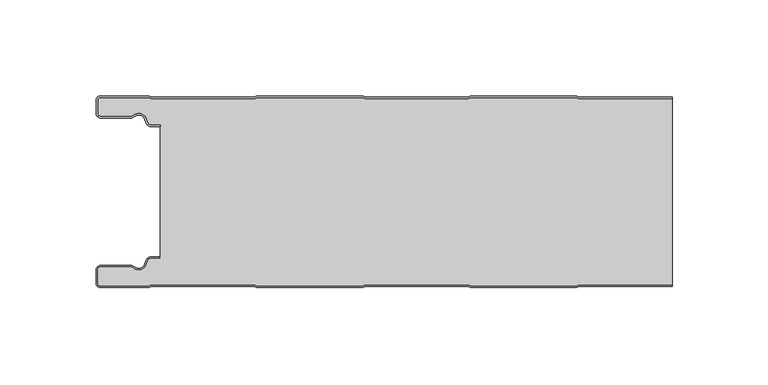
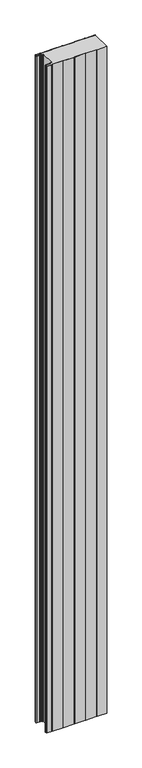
"""IFC4 building model written with IfcOpenShell, lengths in millimetres: plate geometry, ACH_Panel-Frigorífico_PUR-PIR : ACH_Panel-Frigorífico-PIR_100mm."""

from ifc_helpers import new_model, si_unit, point, frame_2d, origin, origin_with_axes, place, context, project, spatial, polyline, circle_curve, trimmed, segment, composite_curve, outline, extrude, source, transform, mapped, element, save


def plate_da9b8946(model_context):
    return source(origin(), model_context, "Body", "SweptSolid", [
        extrude(outline(composite_curve([segment(trimmed(circle_curve(frame_2d((-147.49499, -9.0180361)), 2.50501), [point((-147.49499, -11.5230461))], [point((-150.0, -9.0180361))], False, "CARTESIAN"), True, "CONTINUOUS"), segment(polyline([(-150.0, -9.0180361), (-150.0, -2.50501)]), True, "CONTINUOUS"), segment(trimmed(circle_curve(frame_2d((-147.49499, -2.50501)), 2.50501), [point((-150.0, -2.50501))], [point((-147.49499, 0.0))], False, "CARTESIAN"), True, "CONTINUOUS"), segment(polyline([(-147.49499, 0.0), (-122.2103007, 0.0), (-121.028188, -0.6012024), (-67.6391467, -0.6012024), (-66.457034, 0.0), (-10.8776353, 0.0), (-9.6955227, -0.6012024), (43.6935186, -0.6012024), (44.8756313, 0.0), (100.45503, 0.0), (101.6371427, -0.6012024), (150.0, -0.6012024), (150.0, -1.4012024), (101.4453963, -1.4012024), (100.2632836, -0.8), (45.0673777, -0.8), (43.885265, -1.4012024), (-9.887269, -1.4012024), (-11.0693817, -0.8), (-66.2652876, -0.8), (-67.4474003, -1.4012024), (-121.2199344, -1.4012024), (-122.4020471, -0.8), (-147.49499, -0.8)]), True, "CONTINUOUS"), segment(trimmed(circle_curve(frame_2d((-147.49499, -2.50501)), 1.70501), [point((-147.49499, -0.8))], [point((-149.2, -2.50501))], True, "CARTESIAN"), True, "CONTINUOUS"), segment(polyline([(-149.2, -2.50501), (-149.2, -9.0180361)]), True, "CONTINUOUS"), segment(trimmed(circle_curve(frame_2d((-147.49499, -9.0180361)), 1.70501), [point((-149.2, -9.0180361))], [point((-147.49499, -10.7230461))], True, "CARTESIAN"), True, "CONTINUOUS"), segment(polyline([(-147.49499, -10.7230461), (-131.8173283, -10.7230461)]), True, "CONTINUOUS"), segment(trimmed(circle_curve(frame_2d((-131.8173283, -9.0180361)), 1.70501), [point((-131.8173283, -10.7230461))], [point((-130.6895701, -10.2967936))], True, "CARTESIAN"), True, "CONTINUOUS"), segment(trimmed(circle_curve(frame_2d((-127.8407481, -13.5270541)), 4.307014), [point((-130.6895701, -10.2967936))], [point((-123.7934788, -12.0539686))], False, "CARTESIAN"), True, "CONTINUOUS"), segment(polyline([(-123.7934788, -12.0539686), (-123.0450711, -14.1102019)]), True, "CONTINUOUS"), segment(trimmed(circle_curve(frame_2d((-121.4428858, -13.5270541)), 1.70501), [point((-123.0450711, -14.1102019))], [point((-121.4428858, -15.2320641))], True, "CARTESIAN"), True, "CONTINUOUS"), segment(polyline([(-121.4428858, -15.2320641), (-116.4328657, -15.2320641), (-116.4328657, -16.0320641), (-121.4428858, -16.0320641)]), True, "CONTINUOUS"), segment(trimmed(circle_curve(frame_2d((-121.4428858, -13.5270541)), 2.50501), [point((-121.4428858, -16.0320641))], [point((-123.7968252, -14.383818))], False, "CARTESIAN"), True, "CONTINUOUS"), segment(polyline([(-123.7968252, -14.383818), (-124.5452329, -12.3275847)]), True, "CONTINUOUS"), segment(trimmed(circle_curve(frame_2d((-127.8407481, -13.5270541)), 3.507014), [point((-124.5452329, -12.3275847))], [point((-130.1604199, -10.8967936))], True, "CARTESIAN"), True, "CONTINUOUS"), segment(trimmed(circle_curve(frame_2d((-131.8173283, -9.0180361)), 2.50501), [point((-130.1604199, -10.8967936))], [point((-131.8173283, -11.5230461))], False, "CARTESIAN"), True, "CONTINUOUS"), segment(polyline([(-131.8173283, -11.5230461), (-147.49499, -11.5230461)]), True, "CONTINUOUS")], self_intersect=False)), origin_with_axes(), (0.0, 0.0, 1.0), 3500.0),
        extrude(outline(composite_curve([segment(trimmed(circle_curve(frame_2d((-121.4428858, -13.5270541)), 1.70501), [point((-121.4428858, -15.2320641))], [point((-123.0450711, -14.1102019))], False, "CARTESIAN"), True, "CONTINUOUS"), segment(polyline([(-123.0450711, -14.1102019), (-123.7934788, -12.0539686)]), True, "CONTINUOUS"), segment(trimmed(circle_curve(frame_2d((-127.8407481, -13.5270541)), 4.307014), [point((-123.7934788, -12.0539686))], [point((-130.6895701, -10.2967936))], True, "CARTESIAN"), True, "CONTINUOUS"), segment(trimmed(circle_curve(frame_2d((-131.8173283, -9.0180361)), 1.70501), [point((-130.6895701, -10.2967936))], [point((-131.8173283, -10.7230461))], False, "CARTESIAN"), True, "CONTINUOUS"), segment(polyline([(-131.8173283, -10.7230461), (-147.49499, -10.7230461)]), True, "CONTINUOUS"), segment(trimmed(circle_curve(frame_2d((-147.49499, -9.0180361)), 1.70501), [point((-147.49499, -10.7230461))], [point((-149.2, -9.0180361))], False, "CARTESIAN"), True, "CONTINUOUS"), segment(polyline([(-149.2, -9.0180361), (-149.2, -2.50501)]), True, "CONTINUOUS"), segment(trimmed(circle_curve(frame_2d((-147.49499, -2.50501)), 1.70501), [point((-149.2, -2.50501))], [point((-147.49499, -0.8))], False, "CARTESIAN"), True, "CONTINUOUS"), segment(polyline([(-147.49499, -0.8), (-122.4020471, -0.8), (-121.2199344, -1.4012024), (-67.4474003, -1.4012024), (-66.2652876, -0.8), (-11.0693817, -0.8), (-9.887269, -1.4012024), (43.885265, -1.4012024), (45.0673777, -0.8), (100.2632836, -0.8), (101.4453963, -1.4012024), (150.0, -1.4012024), (150.0, -98.5987976), (101.4453963, -98.5987976), (100.2632836, -99.2), (45.0673777, -99.2), (43.885265, -98.5987976), (-9.887269, -98.5987976), (-11.0693817, -99.2), (-66.2652876, -99.2), (-67.4474003, -98.5987976), (-121.2199344, -98.5987976), (-122.4020471, -99.2), (-147.49499, -99.2)]), True, "CONTINUOUS"), segment(trimmed(circle_curve(frame_2d((-147.49499, -97.49499)), 1.70501), [point((-147.49499, -99.2))], [point((-149.2, -97.49499))], False, "CARTESIAN"), True, "CONTINUOUS"), segment(polyline([(-149.2, -97.49499), (-149.2, -90.9819639)]), True, "CONTINUOUS"), segment(trimmed(circle_curve(frame_2d((-147.49499, -90.9819639)), 1.70501), [point((-149.2, -90.9819639))], [point((-147.49499, -89.2769539))], False, "CARTESIAN"), True, "CONTINUOUS"), segment(polyline([(-147.49499, -89.2769539), (-131.8173283, -89.2769539)]), True, "CONTINUOUS"), segment(trimmed(circle_curve(frame_2d((-131.8173283, -90.9819639)), 1.70501), [point((-131.8173283, -89.2769539))], [point((-130.6895701, -89.7032064))], False, "CARTESIAN"), True, "CONTINUOUS"), segment(trimmed(circle_curve(frame_2d((-127.8407481, -86.4729459)), 4.307014), [point((-130.6895701, -89.7032064))], [point((-123.7934788, -87.9460314))], True, "CARTESIAN"), True, "CONTINUOUS"), segment(polyline([(-123.7934788, -87.9460314), (-123.0450711, -85.8897981)]), True, "CONTINUOUS"), segment(trimmed(circle_curve(frame_2d((-121.4428858, -86.4729459)), 1.70501), [point((-123.0450711, -85.8897981))], [point((-121.4428858, -84.7679359))], False, "CARTESIAN"), True, "CONTINUOUS"), segment(polyline([(-121.4428858, -84.7679359), (-116.4328657, -84.7679359), (-116.4328657, -15.2320641), (-121.4428858, -15.2320641)]), True, "CONTINUOUS")], self_intersect=False)), origin_with_axes(), (0.0, 0.0, 1.0), 3500.0),
        extrude(outline(composite_curve([segment(polyline([(-147.49499, -88.4769539), (-131.8173283, -88.4769539)]), True, "CONTINUOUS"), segment(trimmed(circle_curve(frame_2d((-131.8173283, -90.9819639)), 2.50501), [point((-131.8173283, -88.4769539))], [point((-130.1604199, -89.1032064))], False, "CARTESIAN"), True, "CONTINUOUS"), segment(trimmed(circle_curve(frame_2d((-127.8407481, -86.4729459)), 3.507014), [point((-130.1604199, -89.1032064))], [point((-124.5452329, -87.6724153))], True, "CARTESIAN"), True, "CONTINUOUS"), segment(polyline([(-124.5452329, -87.6724153), (-123.7968252, -85.616182)]), True, "CONTINUOUS"), segment(trimmed(circle_curve(frame_2d((-121.4428858, -86.4729459)), 2.50501), [point((-123.7968252, -85.616182))], [point((-121.4428858, -83.9679359))], False, "CARTESIAN"), True, "CONTINUOUS"), segment(polyline([(-121.4428858, -83.9679359), (-116.4328657, -83.9679359), (-116.4328657, -84.7679359), (-121.4428858, -84.7679359)]), True, "CONTINUOUS"), segment(trimmed(circle_curve(frame_2d((-121.4428858, -86.4729459)), 1.70501), [point((-121.4428858, -84.7679359))], [point((-123.0450711, -85.8897981))], True, "CARTESIAN"), True, "CONTINUOUS"), segment(polyline([(-123.0450711, -85.8897981), (-123.7934788, -87.9460314)]), True, "CONTINUOUS"), segment(trimmed(circle_curve(frame_2d((-127.8407481, -86.4729459)), 4.307014), [point((-123.7934788, -87.9460314))], [point((-130.6895701, -89.7032064))], False, "CARTESIAN"), True, "CONTINUOUS"), segment(trimmed(circle_curve(frame_2d((-131.8173283, -90.9819639)), 1.70501), [point((-130.6895701, -89.7032064))], [point((-131.8173283, -89.2769539))], True, "CARTESIAN"), True, "CONTINUOUS"), segment(polyline([(-131.8173283, -89.2769539), (-147.49499, -89.2769539)]), True, "CONTINUOUS"), segment(trimmed(circle_curve(frame_2d((-147.49499, -90.9819639)), 1.70501), [point((-147.49499, -89.2769539))], [point((-149.2, -90.9819639))], True, "CARTESIAN"), True, "CONTINUOUS"), segment(polyline([(-149.2, -90.9819639), (-149.2, -97.49499)]), True, "CONTINUOUS"), segment(trimmed(circle_curve(frame_2d((-147.49499, -97.49499)), 1.70501), [point((-149.2, -97.49499))], [point((-147.49499, -99.2))], True, "CARTESIAN"), True, "CONTINUOUS"), segment(polyline([(-147.49499, -99.2), (-122.4020471, -99.2), (-121.2199344, -98.5987976), (-67.4474003, -98.5987976), (-66.2652876, -99.2), (-11.0693817, -99.2), (-9.887269, -98.5987976), (43.885265, -98.5987976), (45.0673777, -99.2), (100.2632836, -99.2), (101.4453963, -98.5987976), (150.0, -98.5987976), (150.0, -99.3987976), (101.6371427, -99.3987976), (100.45503, -100.0), (44.8756313, -100.0), (43.6935186, -99.3987976), (-9.6955227, -99.3987976), (-10.8776353, -100.0), (-66.457034, -100.0), (-67.6391467, -99.3987976), (-121.028188, -99.3987976), (-122.2103007, -100.0), (-147.49499, -100.0)]), True, "CONTINUOUS"), segment(trimmed(circle_curve(frame_2d((-147.49499, -97.49499)), 2.50501), [point((-147.49499, -100.0))], [point((-150.0, -97.49499))], False, "CARTESIAN"), True, "CONTINUOUS"), segment(polyline([(-150.0, -97.49499), (-150.0, -90.9819639)]), True, "CONTINUOUS"), segment(trimmed(circle_curve(frame_2d((-147.49499, -90.9819639)), 2.50501), [point((-150.0, -90.9819639))], [point((-147.49499, -88.4769539))], False, "CARTESIAN"), True, "CONTINUOUS")], self_intersect=False)), origin_with_axes(), (0.0, 0.0, 1.0), 3500.0),
    ])


if __name__ == "__main__":
    model = new_model("IFC4")
    model_context = context("Model", 3, world=origin())
    ifc_project = project(units=[si_unit("LENGTHUNIT", "METRE", prefix="MILLI")], contexts=[model_context])
    site = spatial("IfcSite", under=ifc_project)
    building = spatial("IfcBuilding", under=site)
    placement = place(None, origin())
    plate_shape = plate_da9b8946(model_context)
    element("IfcPlate", 1, ObjectType="ACH_Panel-Frigorífico_PUR-PIR : ACH_Panel-Frigorífico-PIR_100mm", at=placement, inside=building, context=model_context, shape_type="MappedRepresentation", body=[
        mapped(plate_shape, transform((0.0, 0.0, 0.0), x_axis=(1.0, 0.0, 0.0), y_axis=(0.0, 1.0, 0.0), z_axis=(0.0, 0.0, 1.0))),
    ])
    save(model, "model.ifc")
